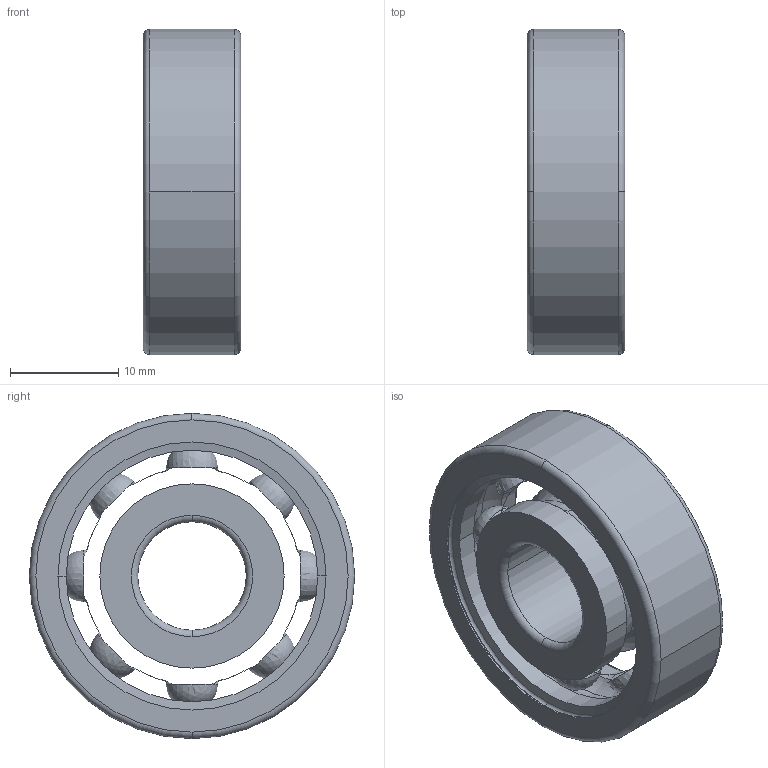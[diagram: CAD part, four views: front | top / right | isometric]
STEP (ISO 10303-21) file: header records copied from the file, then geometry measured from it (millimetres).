
FILE_DESCRIPTION(('STEP AP214'),'1');
FILE_NAME('skf_bearing_6200_2.stp','2024-11-13T07:29:06',('TraceParts'),('TraceParts S.A.'),'Spatial InterOp 3D',' ',' ');
FILE_SCHEMA(('AUTOMOTIVE_DESIGN { 1 0 10303 214 1 1 1 1 }'));
Length unit declared in the file: millimetre
Products named in the file (1): skf_bearing_6200_2_1
Bounding box: 9 x 30 x 30 mm (x, y, z)
Volume: 3949.4 mm3; surface area: 3743.1 mm2
Topology: 3 solids, 3 shells, 80 faces, 220 edges, 128 vertices
Faces by surface type: torus 40, cylinder 16, sphere 16, cone 4, plane 4
Entity records: 2907 total; most frequent: CARTESIAN_POINT 943, DIRECTION 458, ORIENTED_EDGE 376, AXIS2_PLACEMENT_3D 219, EDGE_CURVE 188, CIRCLE 136, VERTEX_POINT 128, EDGE_LOOP 100
